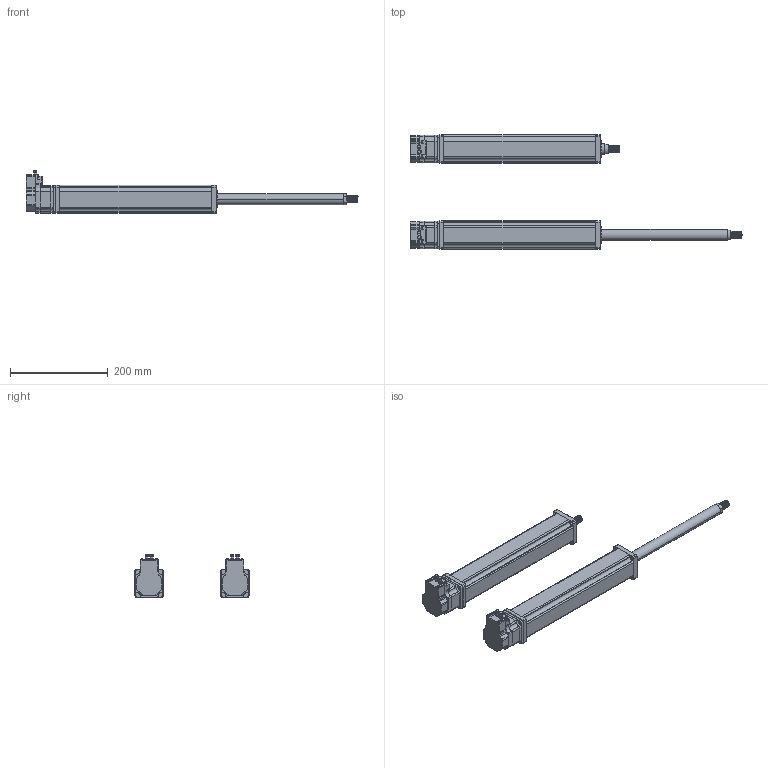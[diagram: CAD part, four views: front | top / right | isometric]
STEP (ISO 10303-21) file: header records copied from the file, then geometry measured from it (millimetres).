
FILE_DESCRIPTION(('STEP AP214'),'1');
FILE_NAME('\Tsurumi-main\3d_dad2\Servo_Motor\tmp0.STEP',' ',(' '),(' '),'XStep 1.0',' ',' ');
FILE_SCHEMA(('automotive_design'));
Length unit declared in the file: millimetre
Bounding box: 678.42 x 233.23 x 88.11 mm (x, y, z)
Volume: 2449749.3 mm3; surface area: 311813.6 mm2
Topology: 48 solids, 48 shells, 1828 faces, 5014 edges, 3286 vertices
Faces by surface type: plane 1250, cylinder 470, bspline 60, torus 36, sphere 8, cone 4
Entity records: 112259 total; most frequent: CARTESIAN_POINT 49708, ORIENTED_EDGE 9996, DIRECTION 9460, EDGE_CURVE 4998, LINE 3900, VECTOR 3900, VERTEX_POINT 3286, AXIS2_PLACEMENT_3D 2780
